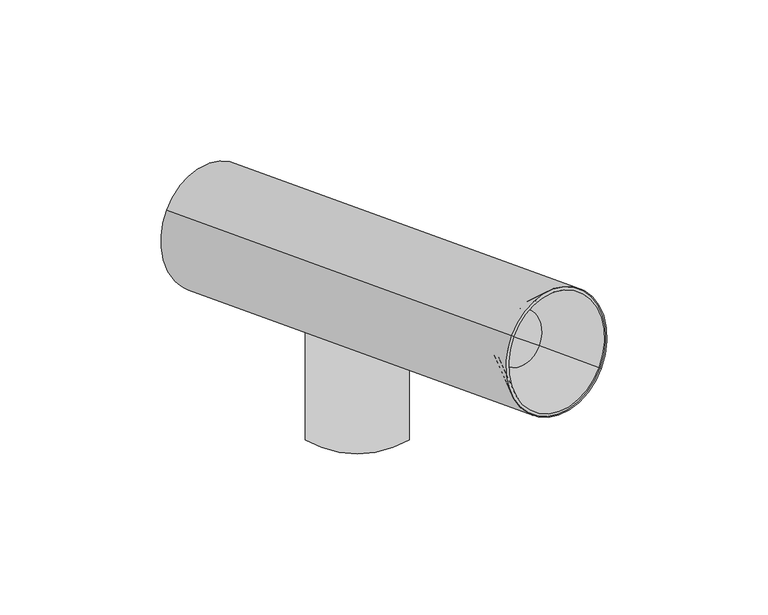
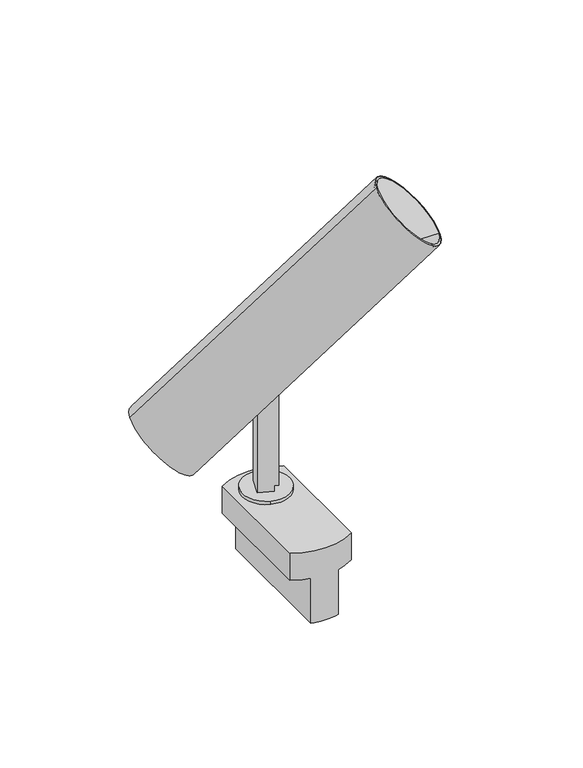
"""IFC4 building model written with IfcOpenShell, lengths in millimetres: light fixture geometry, PIPES T XS : 490lm 7,8W 930 38°."""

from ifc_helpers import new_model, si_unit, point, frame, frame_2d, origin, origin_2d, place, context, project, spatial, polyline, circle_curve, trimmed, segment, composite_curve, outline, extrude, source, transform, mapped, element, save
from ifc_brep_helpers import plane_surface, cylinder_surface, revolved_surface, advanced_brep


def light_fixture_5d1ad320(model_context):
    return source(origin(), model_context, "Body", "SolidModel", [
        extrude(outline(composite_curve([segment(polyline([(-39.7303383, 0.0), (-39.7303383, 7.9999999), (-36.7303383, 7.9999999), (-36.7303383, 10.0), (21.31827, 10.0), (21.31827, 2.0)]), True, "CONTINUOUS"), segment(trimmed(circle_curve(frame_2d((15.691322, 2.0)), 5.626948), [point((21.31827, 2.0))], [point((15.691322, -3.626948))], False, "CARTESIAN"), True, "CONTINUOUS"), segment(polyline([(15.691322, -3.626948), (9.8735653, -3.626948)]), True, "CONTINUOUS"), segment(trimmed(circle_curve(frame_2d((17.7182036, 2.2388679)), 9.7952104), [point((9.8735653, -3.626948))], [point((8.1822916, 0.0))], False, "CARTESIAN"), True, "CONTINUOUS"), segment(polyline([(8.1822916, 0.0), (-39.7303383, 0.0)]), True, "CONTINUOUS")], self_intersect=False)), frame((-6.4085638, -2.9883624, 56.5303383), z_axis=(0.34202014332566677, 0.9396926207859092, 0.0), x_axis=(0.0, 0.0, 1.0)), (0.0, 0.0, 1.0), 10.0),
        extrude(outline(composite_curve([segment(trimmed(circle_curve(origin_2d(), 12.5), [point((-4.2752518, -11.7461578))], [point((4.2752518, 11.7461578))], False, "CARTESIAN"), True, "CONTINUOUS"), segment(trimmed(circle_curve(origin_2d(), 12.5), [point((4.2752518, 11.7461578))], [point((-4.2752518, -11.7461578))], False, "CARTESIAN"), True, "CONTINUOUS")], self_intersect=False)), frame((0.0, 0.0, 15.0), z_axis=(0.0, 0.0, 1.0), x_axis=(1.0, 0.0, 0.0)), (0.0, 0.0, 1.0), 1.8),
        advanced_brep(
        [(-7.1153658, 15.2862846, -25.0), (7.1153658, 15.2862846, -25.0), (7.1153658, -53.3498174, -25.0), (-7.1153658, -53.3498174, -25.0), (-16.1153658, -49.7317664, 15.0), (16.1153658, -49.7317664, 15.0), (16.1153658, 11.6682336, 15.0), (-16.1153658, 11.6682336, 15.0), (-16.1153658, 11.6682336, 0.0), (-16.1153658, -49.7317664, 0.0), (16.1153658, 11.6682336, 0.0), (7.1153658, 15.2862846, 0.0), (-7.1153658, 15.2862846, 0.0), (16.1153658, -49.7317664, 0.0), (-7.1153658, -53.3498174, 0.0), (7.1153658, -53.3498174, 0.0)],
        [
            (0, 1, circle_curve(frame((0.0, -15.4162786, -25.0), z_axis=(0.0, 0.0, -1.0), x_axis=(1.0, 0.0, 0.0)), 31.5162786)),
            (1, 2),
            (2, 3, circle_curve(frame((0.0, -22.6472542, -25.0), z_axis=(0.0, 0.0, -1.0), x_axis=(1.0, 0.0, 0.0)), 31.5162786)),
            (3, 0),
            (4, 5, circle_curve(frame((0.0, -22.6472542, 15.0), z_axis=(0.0, 0.0, 1.0), x_axis=(1.0, 0.0, 0.0)), 31.5162786)),
            (5, 6),
            (6, 7, circle_curve(frame((0.0, -15.4162786, 15.0), z_axis=(0.0, 0.0, 1.0), x_axis=(1.0, 0.0, 0.0)), 31.5162786)),
            (7, 4),
            (7, 8),
            (8, 9),
            (9, 4),
            (6, 10),
            (10, 11, circle_curve(frame((0.0, -15.4162786, 0.0), z_axis=(0.0, 0.0, 1.0), x_axis=(1.0, 0.0, 0.0)), 31.5162786)),
            (11, 1),
            (0, 12),
            (12, 8, circle_curve(frame((0.0, -15.4162786, 0.0), z_axis=(0.0, 0.0, 1.0), x_axis=(1.0, 0.0, 0.0)), 31.5162786)),
            (5, 13),
            (13, 10),
            (9, 14, circle_curve(frame((0.0, -22.6472542, 0.0), z_axis=(0.0, 0.0, 1.0), x_axis=(1.0, 0.0, 0.0)), 31.5162786)),
            (14, 3),
            (2, 15),
            (15, 13, circle_curve(frame((0.0, -22.6472542, 0.0), z_axis=(0.0, 0.0, 1.0), x_axis=(1.0, 0.0, 0.0)), 31.5162786)),
            (12, 14),
            (15, 11),
        ],
        [
            plane_surface(frame((-16.1153658, 11.6883244, -25.0), z_axis=(0.0, 0.0, -1.0), x_axis=(0.0, -1.0, 0.0))),
            plane_surface(frame((-16.1153658, 11.6883244, 15.0), z_axis=(0.0, 0.0, 1.0), x_axis=(0.0, 1.0, 0.0))),
            plane_surface(frame((-16.1153658, -49.7317664, 15.0), z_axis=(-1.0, 0.0, 0.0), x_axis=(0.0, 0.0, -1.0))),
            cylinder_surface(frame((0.0, -15.4162786, -25.0), z_axis=(0.0, 0.0, 1.0), x_axis=(1.0, 0.0, 0.0)), 31.5162786),
            plane_surface(frame((16.1153658, 11.6682336, 15.0), z_axis=(1.0, 0.0, 0.0), x_axis=(0.0, 0.0, -1.0))),
            cylinder_surface(frame((0.0, -22.6472542, -25.0), z_axis=(0.0, 0.0, 1.0), x_axis=(1.0, 0.0, 0.0)), 31.5162786),
            plane_surface(frame((-7.1153658, -58.6979838, 0.0), z_axis=(0.0, 0.0, -1.0), x_axis=(-1.0, 0.0, 0.0))),
            plane_surface(frame((-7.1153658, 21.3020162, 0.0), z_axis=(-1.0, 0.0, 0.0), x_axis=(0.0, 0.0, -1.0))),
            plane_surface(frame((7.1153658, 11.6883244, 0.0), z_axis=(0.0, 0.0, -1.0), x_axis=(0.0, 1.0, 0.0))),
            plane_surface(frame((7.1153658, -58.6979838, 0.0), z_axis=(1.0, 0.0, 0.0), x_axis=(0.0, 0.0, -1.0))),
        ],
        [
            (0, [[1, 2, 3, 4]]),
            (1, [[5, 6, 7, 8]]),
            (2, [[9, 10, 11, -8]]),
            (3, [[12, 13, 14, -1, 15, 16, -9, -7]]),
            (4, [[17, 18, -12, -6]]),
            (5, [[-11, 19, 20, -3, 21, 22, -17, -5]]),
            (6, [[-19, -10, -16, 23]]),
            (7, [[-15, -4, -20, -23]]),
            (8, [[-13, -18, -22, 24]]),
            (9, [[-21, -2, -14, -24]]),
        ],
    ),
        advanced_brep(
        [(-1.7101007, -4.6984631, 80.0710678), (4.5332457, -6.9708554, 73.4270373), (-33.3411467, 6.8142961, 33.1219508), (-34.713778, 7.313893, 34.5826745), (-30.7269998, 5.8628245, 38.8253152), (-35.597715, 7.6356198, 44.008622), (1.7101007, 4.6984631, 80.0710678), (-32.1775135, 17.032546, 44.008622), (-27.3067984, 15.2597507, 38.8253152), (-31.2935765, 16.7108192, 34.5826745), (-29.9209452, 16.2112223, 33.1219508), (7.9534472, 2.4260708, 73.4270373), (-33.8876142, 12.3340829, 44.008622), (6.6446302, -2.4184476, 73.0), (75.7487848, -27.5703029, 146.5391052), (-59.1372092, 21.5241839, 62.3933983), (47.8413378, -17.4128229, 176.2375901), (-57.8082831, 21.0404944, 60.9791847), (-53.821505, 19.5894258, 65.2218254), (-41.1967075, 14.9943753, 51.7867966), (42.8578651, -15.5989872, 155.37794), (49.5024953, -18.0174348, 148.3068722), (56.1471256, -20.4358824, 141.2358044)],
        [
            (0, 1),
            (1, 2),
            (2, 3),
            (3, 4),
            (4, 5),
            (5, 0),
            (6, 7),
            (7, 8),
            (8, 9),
            (9, 10),
            (10, 11),
            (11, 6),
            (5, 12),
            (12, 7),
            (6, 0),
            (11, 13, circle_curve(frame((-7.3090933, 2.6602924, 87.8492424), z_axis=(-0.6644630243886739, 0.2418447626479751, -0.7071067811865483), x_axis=(0.6644630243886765, -0.24184476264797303, -0.7071067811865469)), 21.0)),
            (13, 1, circle_curve(frame((-7.3090933, 2.6602924, 87.8492424), z_axis=(-0.6644630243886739, 0.2418447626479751, -0.7071067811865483), x_axis=(0.6644630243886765, -0.24184476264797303, -0.7071067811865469)), 21.0)),
            (14, 13),
            (10, 15, circle_curve(frame((-45.1834857, 16.4454439, 47.5441559), z_axis=(0.6644630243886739, -0.2418447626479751, 0.7071067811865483), x_axis=(0.6644630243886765, -0.24184476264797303, -0.7071067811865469)), 21.0)),
            (15, 16),
            (16, 14, circle_curve(frame((61.7950613, -22.4915629, 161.3883476), z_axis=(-0.6644630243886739, 0.2418447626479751, -0.7071067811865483), x_axis=(0.6644630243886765, -0.24184476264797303, -0.7071067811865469)), 21.0)),
            (15, 2, circle_curve(frame((-45.1834857, 16.4454439, 47.5441559), z_axis=(0.6644630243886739, -0.2418447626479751, 0.7071067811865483), x_axis=(0.6644630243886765, -0.24184476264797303, -0.7071067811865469)), 21.0)),
            (14, 16, circle_curve(frame((61.7950613, -22.4915629, 161.3883476), z_axis=(-0.6644630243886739, 0.2418447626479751, -0.7071067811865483), x_axis=(0.6644630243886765, -0.24184476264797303, -0.7071067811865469)), 21.0)),
            (9, 17, circle_curve(frame((-45.1834857, 16.4454439, 47.5441559), z_axis=(0.6644630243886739, -0.2418447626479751, 0.7071067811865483), x_axis=(0.6644630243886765, -0.24184476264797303, -0.7071067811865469)), 19.0)),
            (17, 15),
            (17, 3, circle_curve(frame((-45.1834857, 16.4454439, 47.5441559), z_axis=(0.6644630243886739, -0.2418447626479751, 0.7071067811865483), x_axis=(0.6644630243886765, -0.24184476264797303, -0.7071067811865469)), 19.0)),
            (8, 18, circle_curve(frame((-41.1967075, 14.9943753, 51.7867966), z_axis=(0.6644630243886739, -0.2418447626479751, 0.7071067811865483), x_axis=(0.6644630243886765, -0.24184476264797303, -0.7071067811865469)), 19.0)),
            (18, 17),
            (18, 4, circle_curve(frame((-41.1967075, 14.9943753, 51.7867966), z_axis=(0.6644630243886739, -0.2418447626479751, 0.7071067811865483), x_axis=(0.6644630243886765, -0.24184476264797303, -0.7071067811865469)), 19.0)),
            (12, 19),
            (19, 18),
            (20, 21),
            (21, 22),
            (22, 20, circle_curve(frame((49.5024953, -18.0174348, 148.3068722), z_axis=(0.6644630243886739, -0.2418447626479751, 0.7071067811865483), x_axis=(0.6644630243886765, -0.24184476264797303, -0.7071067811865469)), 10.0)),
            (20, 22, circle_curve(frame((49.5024953, -18.0174348, 148.3068722), z_axis=(0.6644630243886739, -0.2418447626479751, 0.7071067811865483), x_axis=(0.6644630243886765, -0.24184476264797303, -0.7071067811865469)), 10.0)),
            (16, 20),
            (22, 14),
        ],
        [
            plane_surface(frame((-1.7101007, -4.6984631, 80.0710678), z_axis=(0.34202014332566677, 0.9396926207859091, 0.0), x_axis=(0.6644630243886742, -0.24184476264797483, 0.7071067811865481))),
            plane_surface(frame((1.7101007, 4.6984631, 80.0710678), z_axis=(-0.34202014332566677, -0.9396926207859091, 0.0), x_axis=(-0.6644630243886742, 0.24184476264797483, -0.7071067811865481))),
            plane_surface(frame((1.7101007, 4.6984631, 80.0710678), z_axis=(0.6644630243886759, -0.24184476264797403, -0.707106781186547), x_axis=(-0.3420201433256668, -0.9396926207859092, 0.0))),
            plane_surface(frame((14.9993612, -0.1384321, 65.9289322), z_axis=(-0.6644630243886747, 0.2418447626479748, -0.707106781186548), x_axis=(-0.34202014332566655, -0.9396926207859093, 0.0))),
            cylinder_surface(frame((-50.7997803, 18.4896079, 41.56742), z_axis=(-0.664463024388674, 0.24184476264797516, -0.7071067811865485), x_axis=(0.6644630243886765, -0.24184476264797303, -0.7071067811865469)), 21.0),
            plane_surface(frame((-45.1834857, 16.4454439, 47.5441559), z_axis=(-0.6644630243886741, 0.24184476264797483, -0.7071067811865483), x_axis=(0.6644630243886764, -0.24184476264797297, -0.7071067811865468))),
            revolved_surface(polyline([(-32.55868823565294, 11.850393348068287, 34.10912703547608), (-28.57191005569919, 10.399324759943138, 38.351767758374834)]), (-50.7997803, 18.4896079, 41.56742), (-0.664463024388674, 0.24184476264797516, -0.7071067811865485)),
            plane_surface(frame((-41.1967075, 14.9943753, 51.7867966), z_axis=(-0.6644630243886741, 0.24184476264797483, -0.7071067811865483), x_axis=(0.6644630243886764, -0.24184476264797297, -0.7071067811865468))),
            plane_surface(frame((49.5024953, -18.0174348, 148.3068722), z_axis=(0.6644630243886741, -0.24184476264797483, 0.7071067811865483), x_axis=(0.6644630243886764, -0.24184476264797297, -0.7071067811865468))),
            revolved_surface(polyline([(56.1471256, -20.4358824, 141.2358044), (75.7487848, -27.5703029, 146.5391052)]), (-50.7997803, 18.4896079, 41.56742), (-0.664463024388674, 0.24184476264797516, -0.7071067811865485)),
        ],
        [
            (0, [[1, 2, 3, 4, 5, 6]]),
            (1, [[7, 8, 9, 10, 11, 12]]),
            (2, [[-6, 13, 14, -7, 15]]),
            (3, [[-12, 16, 17, -1, -15]]),
            (4, [[18, -16, -11, 19, 20, 21]]),
            (4, [[22, -2, -17, -18, 23, -20]]),
            (5, [[-19, -10, 24, 25]]),
            (5, [[26, -3, -22, -25]]),
            (6, [[-24, -9, 27, 28]]),
            (6, [[29, -4, -26, -28]]),
            (7, [[-27, -8, -14, 30, 31]]),
            (7, [[-30, -13, -5, -29, -31]]),
            (8, [[32, 33, 34]]),
            (8, [[-32, 35, -33]]),
            (9, [[36, -34, 37, -21]]),
            (9, [[-37, -35, -36, -23]]),
        ],
    ),
        advanced_brep(
        [(-38.2555671, 8.6029988, 41.1801948), (-34.7728333, 7.3353874, 37.473947), (-36.1017594, 7.819077, 36.0597335), (-39.5844931, 9.0866884, 39.7659813), (-36.1642917, 18.4836146, 39.7659813), (-32.681558, 17.2160032, 36.0597335), (-31.3526319, 16.7323136, 37.473947), (-34.8353656, 17.999925, 41.1801948), (-37.8743924, 13.7851515, 39.7659813), (-36.5454663, 13.3014619, 41.1801948), (-43.8545596, 15.9617543, 48.9583694), (-55.1462073, 20.071578, 60.9746899), (-56.4751333, 20.5552675, 59.5604764), (-45.1834857, 16.4454439, 47.5441559)],
        [
            (0, 1),
            (1, 2),
            (2, 3),
            (3, 0),
            (4, 5),
            (5, 6),
            (6, 7),
            (7, 4),
            (3, 8),
            (8, 4),
            (7, 9),
            (9, 0),
            (10, 9),
            (6, 11, circle_curve(frame((-43.8545596, 15.9617543, 48.9583694), z_axis=(0.6644630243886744, -0.24184476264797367, 0.7071067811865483), x_axis=(0.6644630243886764, -0.24184476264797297, -0.7071067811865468)), 16.9936434)),
            (11, 10),
            (11, 1, circle_curve(frame((-43.8545596, 15.9617543, 48.9583694), z_axis=(0.6644630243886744, -0.24184476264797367, 0.7071067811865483), x_axis=(0.6644630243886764, -0.24184476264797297, -0.7071067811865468)), 16.9936434)),
            (5, 12, circle_curve(frame((-45.1834857, 16.4454439, 47.5441559), z_axis=(0.6644630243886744, -0.24184476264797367, 0.7071067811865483), x_axis=(0.6644630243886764, -0.24184476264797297, -0.7071067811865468)), 16.9936434)),
            (12, 11),
            (12, 2, circle_curve(frame((-45.1834857, 16.4454439, 47.5441559), z_axis=(0.6644630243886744, -0.24184476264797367, 0.7071067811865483), x_axis=(0.6644630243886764, -0.24184476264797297, -0.7071067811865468)), 16.9936434)),
            (8, 13),
            (13, 12),
        ],
        [
            plane_surface(frame((-1.7101007, -4.6984631, 80.0710678), z_axis=(0.34202014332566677, 0.9396926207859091, 0.0), x_axis=(0.6644630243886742, -0.24184476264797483, 0.7071067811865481))),
            plane_surface(frame((1.7101007, 4.6984631, 80.0710678), z_axis=(-0.34202014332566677, -0.9396926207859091, 0.0), x_axis=(-0.6644630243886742, 0.24184476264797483, -0.7071067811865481))),
            plane_surface(frame((1.7101007, 4.6984631, 80.0710678), z_axis=(0.6644630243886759, -0.24184476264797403, -0.707106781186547), x_axis=(-0.3420201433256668, -0.9396926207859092, 0.0))),
            plane_surface(frame((-43.8545596, 15.9617543, 48.9583694), z_axis=(0.6644630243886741, -0.24184476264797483, 0.7071067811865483), x_axis=(0.6644630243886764, -0.24184476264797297, -0.7071067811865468))),
            cylinder_surface(frame((42.5572747, -15.4895812, 140.9159227), z_axis=(-0.6644630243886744, 0.24184476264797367, -0.7071067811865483), x_axis=(0.6644630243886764, -0.24184476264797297, -0.7071067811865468)), 16.9936434),
            plane_surface(frame((-45.1834857, 16.4454439, 47.5441559), z_axis=(-0.6644630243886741, 0.24184476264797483, -0.7071067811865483), x_axis=(0.6644630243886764, -0.24184476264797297, -0.7071067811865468))),
        ],
        [
            (0, [[1, 2, 3, 4]]),
            (1, [[5, 6, 7, 8]]),
            (2, [[9, 10, -8, 11, 12, -4]]),
            (3, [[13, -11, -7, 14, 15]]),
            (3, [[16, -1, -12, -13, -15]]),
            (4, [[-14, -6, 17, 18]]),
            (4, [[19, -2, -16, -18]]),
            (5, [[-17, -5, -10, 20, 21]]),
            (5, [[-20, -9, -3, -19, -21]]),
        ],
    ),
        advanced_brep(
        [(43.9002906, -15.978399, 155.6828275), (50.1669583, -18.2592796, 149.013979), (56.4336261, -20.5401601, 142.3451304), (48.6143864, -17.6941896, 175.4149289), (74.9757362, -27.2889363, 147.3617664), (47.8413378, -17.4128229, 176.2375901), (75.7487848, -27.5703029, 146.5391052), (42.8578651, -15.5989872, 155.37794), (56.1471256, -20.4358824, 141.2358044), (49.5024953, -18.0174348, 148.3068722)],
        [
            (0, 1),
            (1, 2),
            (2, 0, circle_curve(frame((50.1669583, -18.2592796, 149.013979), z_axis=(0.6644630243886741, -0.24184476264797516, 0.7071067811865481), x_axis=(0.6644630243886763, -0.24184476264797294, -0.7071067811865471)), 9.431176)),
            (0, 2, circle_curve(frame((50.1669583, -18.2592796, 149.013979), z_axis=(0.6644630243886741, -0.24184476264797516, 0.7071067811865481), x_axis=(0.6644630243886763, -0.24184476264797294, -0.7071067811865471)), 9.431176)),
            (3, 0),
            (2, 4),
            (4, 3, circle_curve(frame((61.7950613, -22.4915629, 161.3883476), z_axis=(0.6644630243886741, -0.24184476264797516, 0.7071067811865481), x_axis=(0.6644630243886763, -0.24184476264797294, -0.7071067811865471)), 19.8365814)),
            (3, 4, circle_curve(frame((61.7950613, -22.4915629, 161.3883476), z_axis=(0.6644630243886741, -0.24184476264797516, 0.7071067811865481), x_axis=(0.6644630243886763, -0.24184476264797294, -0.7071067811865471)), 19.8365814)),
            (5, 3),
            (4, 6),
            (6, 5, circle_curve(frame((61.7950613, -22.4915629, 161.3883476), z_axis=(0.6644630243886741, -0.24184476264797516, 0.7071067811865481), x_axis=(0.6644630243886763, -0.24184476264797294, -0.7071067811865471)), 21.0)),
            (5, 6, circle_curve(frame((61.7950613, -22.4915629, 161.3883476), z_axis=(0.6644630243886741, -0.24184476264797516, 0.7071067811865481), x_axis=(0.6644630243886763, -0.24184476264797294, -0.7071067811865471)), 21.0)),
            (7, 5),
            (6, 8),
            (8, 7, circle_curve(frame((49.5024953, -18.0174348, 148.3068722), z_axis=(0.6644630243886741, -0.24184476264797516, 0.7071067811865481), x_axis=(0.6644630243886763, -0.24184476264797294, -0.7071067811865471)), 10.0)),
            (7, 8, circle_curve(frame((49.5024953, -18.0174348, 148.3068722), z_axis=(0.6644630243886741, -0.24184476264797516, 0.7071067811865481), x_axis=(0.6644630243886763, -0.24184476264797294, -0.7071067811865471)), 10.0)),
            (9, 7),
            (8, 9),
        ],
        [
            plane_surface(frame((50.1669583, -18.2592796, 149.013979), z_axis=(0.6644630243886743, -0.24184476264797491, 0.7071067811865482), x_axis=(0.6644630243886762, -0.2418447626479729, -0.707106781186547))),
            revolved_surface(polyline([(56.4336261, -20.5401601, 142.3451304), (74.9757362, -27.2889363, 147.3617664)]), (-64.0890408, 23.3265032, 27.4252844), (-0.6644630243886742, 0.24184476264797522, -0.7071067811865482)),
            plane_surface(frame((61.7950613, -22.4915629, 161.3883476), z_axis=(0.6644630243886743, -0.24184476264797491, 0.7071067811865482), x_axis=(0.6644630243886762, -0.2418447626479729, -0.707106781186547))),
            revolved_surface(polyline([(75.7487848, -27.5703029, 146.5391052), (56.1471256, -20.4358824, 141.2358044)]), (-64.0890408, 23.3265032, 27.4252844), (-0.6644630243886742, 0.24184476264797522, -0.7071067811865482)),
            plane_surface(frame((49.5024953, -18.0174348, 148.3068722), z_axis=(-0.6644630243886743, 0.24184476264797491, -0.7071067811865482), x_axis=(0.6644630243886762, -0.2418447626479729, -0.707106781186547))),
        ],
        [
            (0, [[1, 2, 3]]),
            (0, [[-2, -1, 4]]),
            (1, [[5, -3, 6, 7]]),
            (1, [[-6, -4, -5, 8]]),
            (2, [[9, -7, 10, 11]]),
            (2, [[-10, -8, -9, 12]]),
            (3, [[13, -11, 14, 15]]),
            (3, [[-14, -12, -13, 16]]),
            (4, [[17, -15, 18]]),
            (4, [[-18, -16, -17]]),
        ],
    ),
    ])


if __name__ == "__main__":
    model = new_model("IFC4")
    model_context = context("Model", 3, world=origin())
    ifc_project = project(units=[si_unit("LENGTHUNIT", "METRE", prefix="MILLI")], contexts=[model_context])
    site = spatial("IfcSite", under=ifc_project)
    building = spatial("IfcBuilding", under=site)
    placement = place(None, origin())
    light_fixture_shape = light_fixture_5d1ad320(model_context)
    element("IfcLightFixture", 1, ObjectType="PIPES T XS : 490lm 7,8W 930 38°", at=placement, inside=building, context=model_context, shape_type="MappedRepresentation", body=[
        mapped(light_fixture_shape, transform((0.0, 0.0, 0.0), x_axis=(1.0, 0.0, 0.0), y_axis=(0.0, 1.0, 0.0), z_axis=(0.0, 0.0, 1.0))),
    ])
    save(model, "model.ifc")
